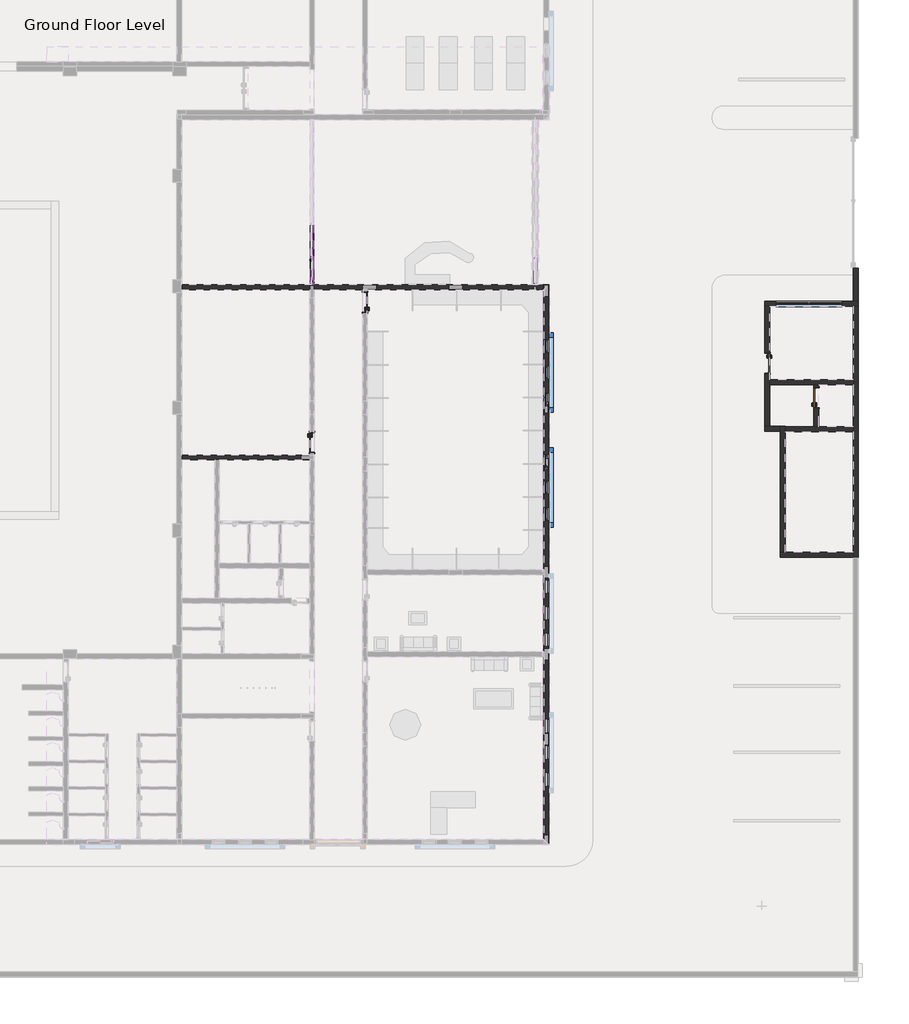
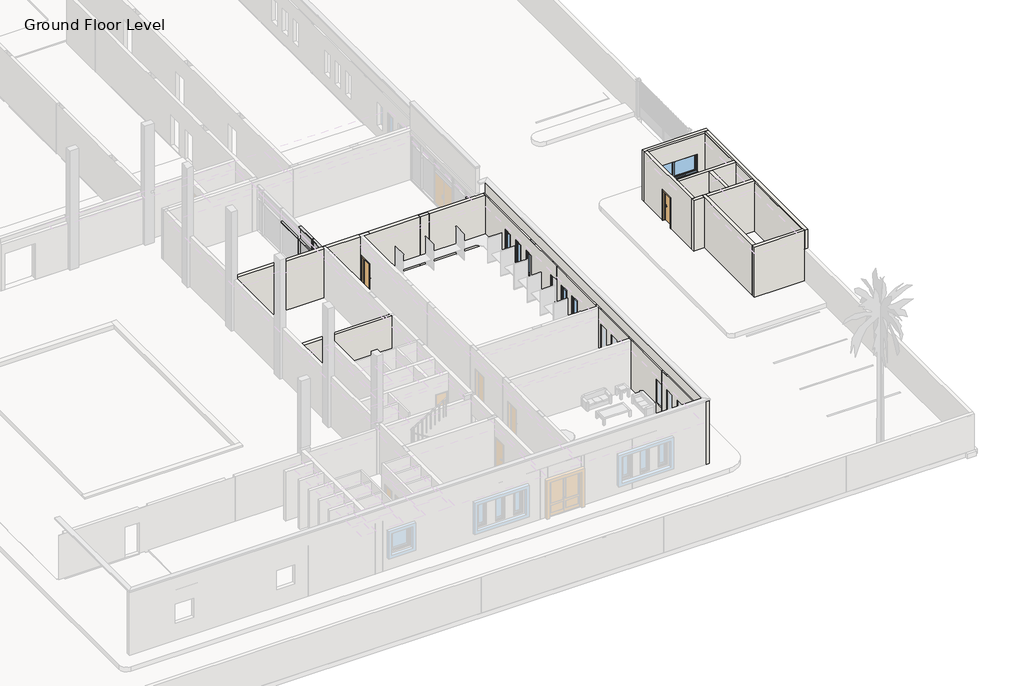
# One storey, part 5 of 23: 20 members, 13 walls, 9 windows, 6 doors, 4 plates.
"""IFC4 building model written with IfcOpenShell, lengths in millimetres."""

from ifc_helpers import new_model, si_unit, frame, origin, place, context, project, spatial, polyline, outline, extrude, faceted_brep, transform, mapped, element, save
from components import int_single_flush_nz_900_x_2100_2a598139, int_single_flush_nz_900_x_2100_021ef152, m_curtain_wall_sgl_glass_m_curtain_wall_sgl_glass_aad50b51, m_curtain_wall_sgl_glass_m_curtain_wall_sgl_glass_f4fa41e6, rectangular_mullion_50_x_150mm_79b53f25, rectangular_mullion_50_x_150mm_f0154c62, rectangular_mullion_50_x_150mm_3a148f0f, rectangular_mullion_50_x_150mm_5a145be0, rectangular_mullion_50_x_150mm_de483d99, rectangular_mullion_50_x_150mm_3a321350, rectangular_mullion_50_x_150mm_e54847f5, rectangular_mullion_50_x_150mm_792551fd, rectangular_mullion_50_x_150mm_23485ade, rectangular_mullion_50_x_150mm_35d6a770, rectangular_mullion_50_x_150mm_3ddb3363, rectangular_mullion_50_x_150mm_64d38db8, rectangular_mullion_50_x_150mm_641d0453, rectangular_mullion_50_x_150mm_e5f2d676, rectangular_mullion_50_x_150mm_4c046977, rectangular_mullion_50_x_150mm_5ce1b9ad, system_panel_glazed_c0405daf, system_panel_glazed_5c305629, system_panel_glazed_34c8777d, system_panel_glazed_a333d43b, awning_casement_double_w6_428bdf5d, window_batten_type_1_65f01d97, window_single_shutter_w3_b236610e

model = new_model("IFC4")

# Units and contexts
model_context = context("Model", 3, world=origin())
ifc_project = project(units=[si_unit("LENGTHUNIT", "METRE", prefix="MILLI")], contexts=[model_context])

# Site, building, storey
site = spatial("IfcSite", under=ifc_project)
building = spatial("IfcBuilding", under=site)
storey = spatial("IfcBuildingStorey", under=building, Name="Ground Floor Level", Elevation=900.0)

# Doors
placement = place(None, origin())
int_single_flush_nz_900_x_2100_shape = int_single_flush_nz_900_x_2100_2a598139(model_context)
element("IfcDoor", 1, ObjectType="Int Single-Flush (NZ) : 900 x 2100", at=placement, inside=storey, context=model_context, shape_type="MappedRepresentation", body=[
    mapped(int_single_flush_nz_900_x_2100_shape, transform((7752.7672395, -16758.7846466, 1000.0), x_axis=(0.0, 1.0, 0.0), y_axis=(-1.0, 0.0, 0.0), z_axis=(0.0, 0.0, 1.0))),
])
element("IfcDoor", 2, ObjectType="Int Single-Flush (NZ) : 900 x 2100", at=placement, inside=storey, context=model_context, shape_type="MappedRepresentation", body=[
    mapped(int_single_flush_nz_900_x_2100_shape, transform((5352.7672394, -23250.7846466, 1000.0), x_axis=(0.0, -1.0, 0.0), y_axis=(1.0, 0.0, 0.0), z_axis=(0.0, 0.0, 1.0))),
])
int_single_flush_nz_900_x_2100_2_shape = int_single_flush_nz_900_x_2100_021ef152(model_context)
element("IfcDoor", 3, ObjectType="Int Single-Flush (NZ) : 900 x 2100", at=placement, inside=storey, context=model_context, shape_type="MappedRepresentation", body=[
    mapped(int_single_flush_nz_900_x_2100_2_shape, transform((25952.7672395, -19670.7846454, 900.0), x_axis=(0.0, -1.0, 0.0), y_axis=(1.0, 0.0, 0.0), z_axis=(0.0, 0.0, 1.0))),
])
element("IfcDoor", 4, ObjectType="Int Single-Flush (NZ) : 900 x 2100", at=placement, inside=storey, context=model_context, shape_type="MappedRepresentation", body=[
    mapped(int_single_flush_nz_900_x_2100_2_shape, transform((28172.7672395, -21078.7846454, 900.0), x_axis=(0.0, 1.0, 0.0), y_axis=(-1.0, 0.0, 0.0), z_axis=(0.0, 0.0, 1.0))),
])
m_curtain_wall_sgl_glass_m_curtain_wall_sgl_glass_shape = m_curtain_wall_sgl_glass_m_curtain_wall_sgl_glass_aad50b51(model_context)
element("IfcDoor", 5, ObjectType="M_Curtain Wall Sgl Glass : M_Curtain Wall Sgl Glass", at=placement, inside=storey, context=model_context, shape_type="MappedRepresentation", body=[
    mapped(m_curtain_wall_sgl_glass_m_curtain_wall_sgl_glass_shape, transform((5352.7672395, -15919.7846466, 1050.0), x_axis=(0.0, -1.0, 0.0), y_axis=(1.0, 0.0, 0.0), z_axis=(0.0, 0.0, 1.0))),
])
m_curtain_wall_sgl_glass_m_curtain_wall_sgl_glass_2_shape = m_curtain_wall_sgl_glass_m_curtain_wall_sgl_glass_f4fa41e6(model_context)
element("IfcDoor", 6, ObjectType="M_Curtain Wall Sgl Glass : M_Curtain Wall Sgl Glass", at=placement, inside=storey, context=model_context, shape_type="MappedRepresentation", body=[
    mapped(m_curtain_wall_sgl_glass_m_curtain_wall_sgl_glass_2_shape, transform((5352.7672395, -15337.2846466, 1050.0), x_axis=(0.0, -1.0, 0.0), y_axis=(1.0, 0.0, 0.0), z_axis=(0.0, 0.0, 1.0))),
])

# Members
rectangular_mullion_50_x_150mm_shape = rectangular_mullion_50_x_150mm_79b53f25(model_context)
element("IfcMember", 7, ObjectType="Rectangular Mullion : 50 x 150mm", at=placement, inside=storey, context=model_context, shape_type="MappedRepresentation", body=[
    mapped(rectangular_mullion_50_x_150mm_shape, transform((5352.7672395, -14804.7846466, 1000.0), x_axis=(0.0, -1.0, 0.0), y_axis=(-1.0, 0.0, 0.0), z_axis=(0.0, 0.0, -1.0))),
])
element("IfcMember", 8, ObjectType="Rectangular Mullion : 50 x 150mm", at=placement, inside=storey, context=model_context, shape_type="MappedRepresentation", body=[
    mapped(rectangular_mullion_50_x_150mm_shape, transform((5352.7672395, -13304.7846466, 1000.0), x_axis=(0.0, -1.0, 0.0), y_axis=(-1.0, 0.0, 0.0), z_axis=(0.0, 0.0, -1.0))),
])
rectangular_mullion_50_x_150mm_2_shape = rectangular_mullion_50_x_150mm_f0154c62(model_context)
element("IfcMember", 9, ObjectType="Rectangular Mullion : 50 x 150mm", at=placement, inside=storey, context=model_context, shape_type="MappedRepresentation", body=[
    mapped(rectangular_mullion_50_x_150mm_2_shape, transform((5352.7672395, -14779.7846466, 3250.0), x_axis=(0.0, 0.0, 1.0), y_axis=(-1.0, 0.0, 0.0), z_axis=(0.0, -1.0, 0.0))),
])
rectangular_mullion_50_x_150mm_3_shape = rectangular_mullion_50_x_150mm_3a148f0f(model_context)
element("IfcMember", 10, ObjectType="Rectangular Mullion : 50 x 150mm", at=placement, inside=storey, context=model_context, shape_type="MappedRepresentation", body=[
    mapped(rectangular_mullion_50_x_150mm_3_shape, transform((5352.7672395, -13279.7846466, 3250.0), x_axis=(0.0, 0.0, 1.0), y_axis=(-1.0, 0.0, 0.0), z_axis=(0.0, -1.0, 0.0))),
])
rectangular_mullion_50_x_150mm_4_shape = rectangular_mullion_50_x_150mm_5a145be0(model_context)
element("IfcMember", 11, ObjectType="Rectangular Mullion : 50 x 150mm", at=placement, inside=storey, context=model_context, shape_type="MappedRepresentation", body=[
    mapped(rectangular_mullion_50_x_150mm_4_shape, transform((5352.7672395, -13329.7846466, 1000.0), x_axis=(0.0, 0.0, -1.0), y_axis=(-1.0, 0.0, 0.0), z_axis=(0.0, 1.0, 0.0))),
])
element("IfcMember", 12, ObjectType="Rectangular Mullion : 50 x 150mm", at=placement, inside=storey, context=model_context, shape_type="MappedRepresentation", body=[
    mapped(rectangular_mullion_50_x_150mm_4_shape, transform((5352.7672395, -14779.7846466, 4150.0), x_axis=(0.0, 0.0, 1.0), y_axis=(-1.0, 0.0, 0.0), z_axis=(0.0, -1.0, 0.0))),
])
rectangular_mullion_50_x_150mm_5_shape = rectangular_mullion_50_x_150mm_de483d99(model_context)
element("IfcMember", 13, ObjectType="Rectangular Mullion : 50 x 150mm", at=placement, inside=storey, context=model_context, shape_type="MappedRepresentation", body=[
    mapped(rectangular_mullion_50_x_150mm_5_shape, transform((5352.7672395, -16044.7846466, 1000.0), x_axis=(0.0, -1.0, 0.0), y_axis=(-1.0, 0.0, 0.0), z_axis=(0.0, 0.0, -1.0))),
])
rectangular_mullion_50_x_150mm_6_shape = rectangular_mullion_50_x_150mm_3a321350(model_context)
element("IfcMember", 14, ObjectType="Rectangular Mullion : 50 x 150mm", at=placement, inside=storey, context=model_context, shape_type="MappedRepresentation", body=[
    mapped(rectangular_mullion_50_x_150mm_6_shape, transform((15452.7672395, -16004.7846466, 4150.0), x_axis=(0.0, 0.0, 1.0), y_axis=(-1.0, 0.0, 0.0), z_axis=(0.0, -1.0, 0.0))),
])
rectangular_mullion_50_x_150mm_7_shape = rectangular_mullion_50_x_150mm_e54847f5(model_context)
element("IfcMember", 15, ObjectType="Rectangular Mullion : 50 x 150mm", at=placement, inside=storey, context=model_context, shape_type="MappedRepresentation", body=[
    mapped(rectangular_mullion_50_x_150mm_7_shape, transform((15452.7672395, -16004.7846466, 3550.0), x_axis=(0.0, 0.0, 1.0), y_axis=(-1.0, 0.0, 0.0), z_axis=(0.0, -1.0, 0.0))),
])
rectangular_mullion_50_x_150mm_8_shape = rectangular_mullion_50_x_150mm_792551fd(model_context)
element("IfcMember", 16, ObjectType="Rectangular Mullion : 50 x 150mm", at=placement, inside=storey, context=model_context, shape_type="MappedRepresentation", body=[
    mapped(rectangular_mullion_50_x_150mm_8_shape, transform((15452.7672395, -16054.7846466, 1000.0), x_axis=(0.0, -1.0, 0.0), y_axis=(-1.0, 0.0, 0.0), z_axis=(0.0, 0.0, -1.0))),
])
rectangular_mullion_50_x_150mm_9_shape = rectangular_mullion_50_x_150mm_23485ade(model_context)
element("IfcMember", 17, ObjectType="Rectangular Mullion : 50 x 150mm", at=placement, inside=storey, context=model_context, shape_type="MappedRepresentation", body=[
    mapped(rectangular_mullion_50_x_150mm_9_shape, transform((15452.7672395, -16054.7846466, 3200.0), x_axis=(0.0, -1.0, 0.0), y_axis=(-1.0, 0.0, 0.0), z_axis=(0.0, 0.0, -1.0))),
])
rectangular_mullion_50_x_150mm_10_shape = rectangular_mullion_50_x_150mm_35d6a770(model_context)
element("IfcMember", 18, ObjectType="Rectangular Mullion : 50 x 150mm", at=placement, inside=storey, context=model_context, shape_type="MappedRepresentation", body=[
    mapped(rectangular_mullion_50_x_150mm_10_shape, transform((5352.7672395, -16044.7846466, 3250.0), x_axis=(0.0, -1.0, 0.0), y_axis=(-1.0, 0.0, 0.0), z_axis=(0.0, 0.0, -1.0))),
])
rectangular_mullion_50_x_150mm_11_shape = rectangular_mullion_50_x_150mm_3ddb3363(model_context)
element("IfcMember", 19, ObjectType="Rectangular Mullion : 50 x 150mm", at=placement, inside=storey, context=model_context, shape_type="MappedRepresentation", body=[
    mapped(rectangular_mullion_50_x_150mm_11_shape, transform((5352.7672395, -14804.7846466, 3250.0), x_axis=(0.0, -1.0, 0.0), y_axis=(-1.0, 0.0, 0.0), z_axis=(0.0, 0.0, -1.0))),
])
rectangular_mullion_50_x_150mm_12_shape = rectangular_mullion_50_x_150mm_64d38db8(model_context)
element("IfcMember", 20, ObjectType="Rectangular Mullion : 50 x 150mm", at=placement, inside=storey, context=model_context, shape_type="MappedRepresentation", body=[
    mapped(rectangular_mullion_50_x_150mm_12_shape, transform((15452.7672395, -16054.7846466, 3550.0), x_axis=(0.0, -1.0, 0.0), y_axis=(-1.0, 0.0, 0.0), z_axis=(0.0, 0.0, -1.0))),
])
rectangular_mullion_50_x_150mm_13_shape = rectangular_mullion_50_x_150mm_641d0453(model_context)
element("IfcMember", 21, ObjectType="Rectangular Mullion : 50 x 150mm", at=placement, inside=storey, context=model_context, shape_type="MappedRepresentation", body=[
    mapped(rectangular_mullion_50_x_150mm_13_shape, transform((5352.7672395, -15844.7846466, 3250.0), x_axis=(0.0, 0.0, 1.0), y_axis=(-1.0, 0.0, 0.0), z_axis=(0.0, -1.0, 0.0))),
])
rectangular_mullion_50_x_150mm_14_shape = rectangular_mullion_50_x_150mm_e5f2d676(model_context)
element("IfcMember", 22, ObjectType="Rectangular Mullion : 50 x 150mm", at=placement, inside=storey, context=model_context, shape_type="MappedRepresentation", body=[
    mapped(rectangular_mullion_50_x_150mm_14_shape, transform((5352.7672395, -15994.7846466, 4150.0), x_axis=(0.0, 0.0, 1.0), y_axis=(-1.0, 0.0, 0.0), z_axis=(0.0, -1.0, 0.0))),
])
rectangular_mullion_50_x_150mm_15_shape = rectangular_mullion_50_x_150mm_4c046977(model_context)
element("IfcMember", 23, ObjectType="Rectangular Mullion : 50 x 150mm", at=placement, inside=storey, context=model_context, shape_type="MappedRepresentation", body=[
    mapped(rectangular_mullion_50_x_150mm_15_shape, transform((5352.7672395, -14829.7846466, 1000.0), x_axis=(0.0, 0.0, -1.0), y_axis=(-1.0, 0.0, 0.0), z_axis=(0.0, 1.0, 0.0))),
])
rectangular_mullion_50_x_150mm_16_shape = rectangular_mullion_50_x_150mm_5ce1b9ad(model_context)
element("IfcMember", 24, ObjectType="Rectangular Mullion : 50 x 150mm", at=placement, inside=storey, context=model_context, shape_type="MappedRepresentation", body=[
    mapped(rectangular_mullion_50_x_150mm_16_shape, transform((5352.7672395, -15994.7846466, 3250.0), x_axis=(0.0, 0.0, 1.0), y_axis=(-1.0, 0.0, 0.0), z_axis=(0.0, -1.0, 0.0))),
])
element("IfcMember", 25, ObjectType="Rectangular Mullion : 50 x 150mm", at=placement, inside=storey, context=model_context, shape_type="MappedRepresentation", body=[
    mapped(rectangular_mullion_50_x_150mm_15_shape, transform((5352.7672395, -15844.7846466, 4150.0), x_axis=(0.0, 0.0, 1.0), y_axis=(-1.0, 0.0, 0.0), z_axis=(0.0, -1.0, 0.0))),
])
element("IfcMember", 26, ObjectType="Rectangular Mullion : 50 x 150mm", at=placement, inside=storey, context=model_context, shape_type="MappedRepresentation", body=[
    mapped(rectangular_mullion_50_x_150mm_14_shape, transform((5352.7672395, -15844.7846466, 1000.0), x_axis=(0.0, 0.0, -1.0), y_axis=(-1.0, 0.0, 0.0), z_axis=(0.0, 1.0, 0.0))),
])

# Plates
system_panel_glazed_shape = system_panel_glazed_c0405daf(model_context)
element("IfcPlate", 27, ObjectType="System Panel : Glazed", at=placement, inside=storey, context=model_context, shape_type="MappedRepresentation", body=[
    mapped(system_panel_glazed_shape, transform((5352.7672395, -14054.7846466, 1050.0), x_axis=(0.0, -1.0, 0.0), y_axis=(1.0, 0.0, 0.0), z_axis=(0.0, 0.0, 1.0))),
])
system_panel_glazed_2_shape = system_panel_glazed_5c305629(model_context)
element("IfcPlate", 28, ObjectType="System Panel : Glazed", at=placement, inside=storey, context=model_context, shape_type="MappedRepresentation", body=[
    mapped(system_panel_glazed_2_shape, transform((5352.7672395, -14054.7846466, 3275.0), x_axis=(0.0, -1.0, 0.0), y_axis=(1.0, 0.0, 0.0), z_axis=(0.0, 0.0, 1.0))),
])
system_panel_glazed_3_shape = system_panel_glazed_34c8777d(model_context)
element("IfcPlate", 29, ObjectType="System Panel : Glazed", at=placement, inside=storey, context=model_context, shape_type="MappedRepresentation", body=[
    mapped(system_panel_glazed_3_shape, transform((5352.7672395, -15337.2846466, 3275.0), x_axis=(0.0, -1.0, 0.0), y_axis=(1.0, 0.0, 0.0), z_axis=(0.0, 0.0, 1.0))),
])
system_panel_glazed_4_shape = system_panel_glazed_a333d43b(model_context)
element("IfcPlate", 30, ObjectType="System Panel : Glazed", at=placement, inside=storey, context=model_context, shape_type="MappedRepresentation", body=[
    mapped(system_panel_glazed_4_shape, transform((5352.7672395, -15919.7846466, 3275.0), x_axis=(0.0, -1.0, 0.0), y_axis=(1.0, 0.0, 0.0), z_axis=(0.0, 0.0, 1.0))),
])

# Walls
element("IfcWall", 31, ObjectType="Exterior - Blockwork 200mm", at=placement, inside=storey, context=model_context, shape_type="Brep", body=[
    faceted_brep([(25842.7672395, -17014.7846454, 900.0), (26062.7672395, -17014.7846454, 900.0), (29842.7672395, -17014.7846454, 900.0), (30062.7672395, -17014.7846454, 900.0), (30062.7672395, -17014.7846454, 4400.0), (29852.7672395, -17014.7846454, 4400.0), (29852.7672395, -17014.7846454, 4270.0), (29842.7672395, -17014.7846454, 4270.0), (26062.7672395, -17014.7846454, 4270.0), (26052.7672395, -17014.7846454, 4270.0), (26052.7672395, -17014.7846454, 4400.0), (25842.7672395, -17014.7846454, 4400.0), (29342.7672395, -17014.7846454, 3000.0), (29342.7672395, -17014.7846454, 1800.0), (26342.7672395, -17014.7846454, 1800.0), (26342.7672395, -17014.7846454, 3000.0), (30062.7672395, -16794.7846454, 900.0), (25842.7672395, -16794.7846454, 900.0), (25842.7672395, -16794.7846454, 4400.0), (30062.7672395, -16794.7846454, 4400.0), (30062.7672395, -16794.7846454, 3100.0), (29342.7672395, -16794.7846454, 1800.0), (29342.7672395, -16794.7846454, 3000.0), (26342.7672395, -16794.7846454, 3000.0), (26342.7672395, -16794.7846454, 1800.0), (26052.7672395, -17004.7846454, 4400.0), (29852.7672395, -17004.7846454, 4400.0), (29852.7672395, -17004.7846454, 4270.0), (26052.7672395, -17004.7846454, 4270.0)], [[[0, 1, 2, 3, 4, 5, 6, 7, 8, 9, 10, 11], [12, 13, 14, 15]], [[16, 17, 18, 19, 20], [21, 22, 23, 24]], [[3, 2, 1, 0, 17, 16]], [[19, 18, 11, 10, 25, 26, 5, 4]], [[0, 11, 18, 17]], [[21, 13, 12, 22]], [[14, 24, 23, 15]], [[13, 21, 24, 14]], [[15, 23, 22, 12]], [[27, 28, 9, 8, 7, 6]], [[26, 27, 6, 5]], [[28, 25, 10, 9]], [[28, 27, 26, 25]], [[3, 16, 20, 19, 4]]]),
])
element("IfcWall", 32, ObjectType="Exterior - Blockwork 200mm", at=placement, inside=storey, context=model_context, shape_type="Brep", body=[
    faceted_brep([(30062.7672395, -28364.7846456, 900.0), (30062.7672395, -17014.7846454, 900.0), (30062.7672395, -17014.7846454, 4400.0), (30062.7672395, -28364.7846456, 4400.0), (29842.7672395, -17014.7846454, 900.0), (29842.7672395, -20344.7846454, 900.0), (29842.7672395, -20564.7846454, 900.0), (29842.7672395, -22464.7846454, 900.0), (29842.7672395, -22684.7846454, 900.0), (29842.7672395, -28144.7846456, 900.0), (29842.7672395, -28364.7846456, 900.0), (29842.7672395, -28364.7846456, 4400.0), (29842.7672395, -28154.7846456, 4400.0), (29842.7672395, -28154.7846456, 4270.0), (29842.7672395, -28144.7846456, 4270.0), (29842.7672395, -17014.7846454, 4270.0), (29852.7672395, -17014.7846454, 4400.0), (29852.7672395, -28154.7846456, 4400.0), (29852.7672395, -28154.7846456, 4270.0), (29852.7672395, -17014.7846454, 4270.0)], [[[0, 1, 2, 3]], [[4, 5, 6, 7, 8, 9, 10, 11, 12, 13, 14, 15]], [[1, 0, 10, 9, 8, 7, 6, 5, 4]], [[3, 2, 16, 17, 12, 11]], [[13, 18, 19, 15, 14]], [[18, 17, 16, 19]], [[17, 18, 13, 12]], [[3, 11, 10, 0]], [[1, 4, 15, 19, 16, 2]]]),
])
element("IfcWall", 33, ObjectType="Exterior - Blockwork 200mm", at=placement, inside=storey, context=model_context, shape_type="Brep", body=[
    faceted_brep([(29842.7672395, -28144.7846456, 900.0), (26762.7672394, -28144.7846456, 900.0), (26542.7672394, -28144.7846456, 900.0), (26542.7672394, -28144.7846456, 4400.0), (26752.7672394, -28144.7846456, 4400.0), (26752.7672394, -28144.7846456, 4270.0), (29842.7672395, -28144.7846456, 4270.0), (26542.7672394, -28364.7846456, 900.0), (29842.7672395, -28364.7846456, 900.0), (29842.7672395, -28364.7846456, 4400.0), (26542.7672394, -28364.7846456, 4400.0), (29842.7672395, -28154.7846456, 4400.0), (26752.7672394, -28154.7846456, 4400.0), (26752.7672394, -28154.7846456, 4270.0), (29842.7672395, -28154.7846456, 4270.0)], [[[0, 1, 2, 3, 4, 5, 6]], [[7, 8, 9, 10]], [[2, 1, 0, 8, 7]], [[10, 9, 11, 12, 4, 3]], [[3, 2, 7, 10]], [[5, 13, 14, 6]], [[13, 12, 11, 14]], [[12, 13, 5, 4]], [[8, 0, 6, 14, 11, 9]]]),
])
element("IfcWall", 34, ObjectType="Exterior - Blockwork 200mm", at=placement, inside=storey, context=model_context, shape_type="Brep", body=[
    faceted_brep([(26762.7672394, -28144.7846456, 900.0), (26762.7672394, -22684.7846454, 900.0), (26762.7672394, -22464.7846454, 900.0), (26762.7672394, -22444.7846454, 900.0), (26762.7672394, -22444.7846454, 4270.0), (26762.7672394, -28144.7846456, 4270.0), (26542.7672394, -22444.7846454, 900.0), (26542.7672394, -22664.7846454, 900.0), (26542.7672394, -28144.7846456, 900.0), (26542.7672394, -28144.7846456, 4400.0), (26542.7672394, -22664.7846454, 4400.0), (26542.7672394, -22454.7846454, 4400.0), (26542.7672394, -22454.7846454, 4270.0), (26542.7672394, -22444.7846454, 4270.0), (26752.7672394, -28144.7846456, 4400.0), (26752.7672394, -22454.7846454, 4400.0), (26752.7672394, -28144.7846456, 4270.0), (26752.7672394, -22454.7846454, 4270.0)], [[[0, 1, 2, 3, 4, 5]], [[6, 7, 8, 9, 10, 11, 12, 13]], [[3, 2, 1, 0, 8, 7, 6]], [[11, 10, 9, 14, 15]], [[9, 8, 0, 5, 16, 14]], [[3, 6, 13, 4]], [[12, 17, 16, 5, 4, 13]], [[17, 15, 14, 16]], [[15, 17, 12, 11]]]),
])
element("IfcWall", 35, ObjectType="Exterior - Blockwork 200mm", at=placement, inside=storey, context=model_context, shape_type="Brep", body=[
    faceted_brep([(26542.7672394, -22444.7846454, 900.0), (26062.7672395, -22444.7846454, 900.0), (25842.7672395, -22444.7846454, 900.0), (25842.7672395, -22444.7846454, 4400.0), (26052.7672395, -22444.7846454, 4400.0), (26052.7672395, -22444.7846454, 4270.0), (26062.7672395, -22444.7846454, 4270.0), (26542.7672394, -22444.7846454, 4270.0), (25842.7672395, -22664.7846454, 900.0), (26542.7672394, -22664.7846454, 900.0), (26542.7672394, -22664.7846454, 4400.0), (25842.7672395, -22664.7846454, 4400.0), (26542.7672394, -22454.7846454, 4400.0), (26052.7672395, -22454.7846454, 4400.0), (26542.7672394, -22454.7846454, 4270.0), (26052.7672395, -22454.7846454, 4270.0)], [[[0, 1, 2, 3, 4, 5, 6, 7]], [[8, 9, 10, 11]], [[2, 1, 0, 9, 8]], [[11, 10, 12, 13, 4, 3]], [[10, 9, 0, 7, 14, 12]], [[3, 2, 8, 11]], [[5, 15, 14, 7, 6]], [[15, 13, 12, 14]], [[13, 15, 5, 4]]]),
])
element("IfcWall", 36, ObjectType="Exterior - Blockwork 200mm", at=placement, inside=storey, context=model_context, shape_type="Brep", body=[
    faceted_brep([(26062.7672395, -22444.7846454, 900.0), (26062.7672395, -20564.7846454, 900.0), (26062.7672395, -20344.7846454, 900.0), (26062.7672395, -20064.7846454, 900.0), (26062.7672395, -20064.7846454, 3019.0), (26062.7672395, -19126.7846454, 3019.0), (26062.7672395, -19126.7846454, 900.0), (26062.7672395, -17014.7846454, 900.0), (26062.7672395, -17014.7846454, 4270.0), (26062.7672395, -22444.7846454, 4270.0), (25842.7672395, -22444.7846454, 4400.0), (25842.7672395, -17014.7846454, 4400.0), (25842.7672395, -17014.7846454, 900.0), (25842.7672395, -19126.7846454, 900.0), (25842.7672395, -19126.7846454, 3019.0), (25842.7672395, -20064.7846454, 3019.0), (25842.7672395, -20064.7846454, 900.0), (25842.7672395, -22444.7846454, 900.0), (26052.7672395, -22444.7846454, 4400.0), (26052.7672395, -17014.7846454, 4400.0), (26052.7672395, -17014.7846454, 4270.0), (26052.7672395, -22444.7846454, 4270.0)], [[[0, 1, 2, 3, 4, 5, 6, 7, 8, 9]], [[10, 11, 12, 13, 14, 15, 16, 17]], [[0, 17, 16, 3, 2, 1]], [[12, 7, 6, 13]], [[11, 10, 18, 19]], [[7, 12, 11, 19, 20, 8]], [[10, 17, 0, 9, 21, 18]], [[20, 21, 9, 8]], [[21, 20, 19, 18]], [[15, 4, 3, 16]], [[4, 15, 14, 5]], [[5, 14, 13, 6]]]),
])
element("IfcWall", 37, ObjectType="Exterior - Blockwork 200mm", at=placement, inside=storey, context=model_context, shape_type="Brep", body=[
    faceted_brep([(15843.0482736, -41364.7846466, 5302.8002678), (15843.0482736, -41144.7846466, 5302.8002678), (15843.0482736, -16264.7846466, 5302.8002678), (15843.0482736, -16264.7846466, 4550.0), (15843.0482736, -41144.7846466, 4550.0), (15843.0482736, -41354.7846466, 4550.0), (15843.0482736, -41354.7846466, 4400.0), (15843.0482736, -41144.7846466, 4400.0), (15843.0482736, -32864.7846466, 4400.0), (15843.0482736, -32644.7846466, 4400.0), (15843.0482736, -29164.7846466, 4400.0), (15843.0482736, -28944.7846466, 4400.0), (15843.0482736, -16264.7846466, 4400.0), (15843.0482736, -16044.7846466, 4400.0), (15843.0482736, -16044.7846466, 900.0), (15843.0482736, -16254.7846466, 900.0), (15843.0482736, -16254.7846466, 1000.0), (15843.0482736, -16264.7846466, 1000.0), (15843.0482736, -28944.7846466, 1000.0), (15843.0482736, -28954.7846466, 1000.0), (15843.0482736, -28954.7846466, 900.0), (15843.0482736, -29154.7846466, 900.0), (15843.0482736, -29154.7846466, 1000.0), (15843.0482736, -29164.7846466, 1000.0), (15843.0482736, -32644.7846466, 1000.0), (15843.0482736, -32654.7846466, 1000.0), (15843.0482736, -32654.7846466, 900.0), (15843.0482736, -32854.7846466, 900.0), (15843.0482736, -32854.7846466, 1000.0), (15843.0482736, -32864.7846466, 1000.0), (15843.0482736, -41144.7846466, 1000.0), (15843.0482736, -41154.7846466, 1000.0), (15843.0482736, -41154.7846466, 900.0), (15843.0482736, -41364.7846466, 900.0), (15843.0482736, -18515.3475065, 1800.0), (15843.0482736, -18515.3475065, 3400.0), (15843.0482736, -19115.3475065, 3400.0), (15843.0482736, -19115.3475065, 1800.0), (15843.0482736, -19715.3475065, 1800.0), (15843.0482736, -19715.3475065, 3400.0), (15843.0482736, -20315.3475065, 3400.0), (15843.0482736, -20315.3475065, 1800.0), (15843.0482736, -20915.3475065, 1800.0), (15843.0482736, -20915.3475065, 3400.0), (15843.0482736, -21515.3475065, 3400.0), (15843.0482736, -21515.3475065, 1800.0), (15843.0482736, -23714.2217868, 1800.0), (15843.0482736, -23714.2217868, 3400.0), (15843.0482736, -24314.2217868, 3400.0), (15843.0482736, -24314.2217868, 1800.0), (15843.0482736, -24914.2217867, 1800.0), (15843.0482736, -24914.2217867, 3400.0), (15843.0482736, -25514.2217867, 3400.0), (15843.0482736, -25514.2217867, 1800.0), (15843.0482736, -26114.2217867, 1800.0), (15843.0482736, -26114.2217867, 3400.0), (15843.0482736, -26714.2217867, 3400.0), (15843.0482736, -26714.2217867, 1800.0), (15843.0482736, -29404.7846466, 1800.0), (15843.0482736, -29404.7846466, 3400.0), (15843.0482736, -30004.7846466, 3400.0), (15843.0482736, -30004.7846466, 1800.0), (15843.0482736, -30604.7846466, 1800.0), (15843.0482736, -30604.7846466, 3400.0), (15843.0482736, -31204.7846466, 3400.0), (15843.0482736, -31204.7846466, 1800.0), (15843.0482736, -31804.7846466, 1800.0), (15843.0482736, -31804.7846466, 3400.0), (15843.0482736, -32404.7846466, 3400.0), (15843.0482736, -32404.7846466, 1800.0), (15843.0482736, -35704.7846466, 1800.0), (15843.0482736, -35704.7846466, 3400.0), (15843.0482736, -36304.7846466, 3400.0), (15843.0482736, -36304.7846466, 1800.0), (15843.0482736, -36904.7846466, 1800.0), (15843.0482736, -36904.7846466, 3400.0), (15843.0482736, -37504.7846466, 3400.0), (15843.0482736, -37504.7846466, 1800.0), (15843.0482736, -38124.7846466, 1800.0), (15843.0482736, -38124.7846466, 3400.0), (15843.0482736, -38724.7846466, 3400.0), (15843.0482736, -38724.7846466, 1800.0), (16063.0482736, -41364.7846466, 900.0), (16063.0482736, -16044.7846466, 900.0), (16063.0482736, -16044.7846466, 4400.0), (16063.0482736, -16264.7846466, 4400.0), (16063.0482736, -16264.7846466, 5302.8002678), (16063.0482736, -41364.7846466, 5302.8002678), (16063.0482736, -18515.3475065, 3400.0), (16063.0482736, -18515.3475065, 1800.0), (16063.0482736, -19115.3475065, 1800.0), (16063.0482736, -19115.3475065, 3400.0), (16063.0482736, -19715.3475065, 3400.0), (16063.0482736, -19715.3475065, 1800.0), (16063.0482736, -20315.3475065, 1800.0), (16063.0482736, -20315.3475065, 3400.0), (16063.0482736, -20915.3475065, 3400.0), (16063.0482736, -20915.3475065, 1800.0), (16063.0482736, -21515.3475065, 1800.0), (16063.0482736, -21515.3475065, 3400.0), (16063.0482736, -23714.2217868, 3400.0), (16063.0482736, -23714.2217868, 1800.0), (16063.0482736, -24314.2217868, 1800.0), (16063.0482736, -24314.2217868, 3400.0), (16063.0482736, -24914.2217867, 3400.0), (16063.0482736, -24914.2217867, 1800.0), (16063.0482736, -25514.2217867, 1800.0), (16063.0482736, -25514.2217867, 3400.0), (16063.0482736, -26114.2217867, 3400.0), (16063.0482736, -26114.2217867, 1800.0), (16063.0482736, -26714.2217867, 1800.0), (16063.0482736, -26714.2217867, 3400.0), (16063.0482736, -29404.7846466, 3400.0), (16063.0482736, -29404.7846466, 1800.0), (16063.0482736, -30004.7846466, 1800.0), (16063.0482736, -30004.7846466, 3400.0), (16063.0482736, -30604.7846466, 3400.0), (16063.0482736, -30604.7846466, 1800.0), (16063.0482736, -31204.7846466, 1800.0), (16063.0482736, -31204.7846466, 3400.0), (16063.0482736, -31804.7846466, 3400.0), (16063.0482736, -31804.7846466, 1800.0), (16063.0482736, -32404.7846466, 1800.0), (16063.0482736, -32404.7846466, 3400.0), (16063.0482736, -35704.7846466, 3400.0), (16063.0482736, -35704.7846466, 1800.0), (16063.0482736, -36304.7846466, 1800.0), (16063.0482736, -36304.7846466, 3400.0), (16063.0482736, -36904.7846466, 3400.0), (16063.0482736, -36904.7846466, 1800.0), (16063.0482736, -37504.7846466, 1800.0), (16063.0482736, -37504.7846466, 3400.0), (16063.0482736, -38124.7846466, 3400.0), (16063.0482736, -38124.7846466, 1800.0), (16063.0482736, -38724.7846466, 1800.0), (16063.0482736, -38724.7846466, 3400.0), (16052.7672395, -16554.7846466, 4400.0), (16052.7672395, -16554.7846466, 900.0), (15853.0482736, -16554.7846466, 900.0), (15853.0482736, -16554.7846466, 1000.0), (15852.7672395, -16554.7846466, 1000.0), (15852.7672395, -16554.7846466, 4400.0), (15852.7672395, -16054.7846466, 900.0), (15852.7672395, -16054.7846466, 4400.0), (15852.7672395, -16254.7846466, 1000.0), (15852.7672395, -16254.7846466, 900.0), (16052.7672395, -21854.7846466, 4400.0), (16052.7672395, -21854.7846466, 900.0), (15853.0482736, -21854.7846466, 900.0), (15853.0482736, -21854.7846466, 1000.0), (15852.7672395, -21854.7846466, 1000.0), (15852.7672395, -21854.7846466, 4400.0), (15852.7672395, -21354.7846466, 3400.0), (15852.7672395, -21354.7846466, 4400.0), (15852.7672395, -21354.7846466, 1000.0), (15852.7672395, -21354.7846466, 1800.0), (15852.7672395, -21515.3475065, 1800.0), (15852.7672395, -21515.3475065, 3400.0), (16052.7672395, -21354.7846466, 3400.0), (16052.7672395, -21354.7846466, 4400.0), (16052.7672395, -21354.7846466, 1800.0), (15853.0482736, -21354.7846466, 1000.0), (15853.0482736, -21354.7846466, 900.0), (16052.7672395, -21354.7846466, 900.0), (16052.7672395, -24404.2217867, 4400.0), (16052.7672395, -24404.2217867, 900.0), (15853.0482736, -24404.2217867, 900.0), (15853.0482736, -24404.2217867, 1000.0), (15852.7672395, -24404.2217867, 1000.0), (15852.7672395, -24404.2217867, 4400.0), (15852.7672395, -23904.2217867, 3400.0), (15852.7672395, -23904.2217867, 4400.0), (15852.7672395, -23904.2217867, 1000.0), (15852.7672395, -23904.2217867, 1800.0), (15852.7672395, -24314.2217868, 1800.0), (15852.7672395, -24314.2217868, 3400.0), (16052.7672395, -23904.2217867, 3400.0), (16052.7672395, -23904.2217867, 4400.0), (16052.7672395, -23904.2217867, 1800.0), (15853.0482736, -23904.2217867, 1000.0), (15853.0482736, -23904.2217867, 900.0), (16052.7672395, -23904.2217867, 900.0), (16052.7672395, -29304.7846466, 4400.0), (16052.7672395, -29304.7846466, 900.0), (15853.0482736, -29304.7846466, 900.0), (15853.0482736, -29304.7846466, 1000.0), (15852.7672395, -29304.7846466, 1000.0), (15852.7672395, -29304.7846466, 4400.0), (15852.7672395, -28804.7846466, 4400.0), (15852.7672395, -29154.7846466, 1000.0), (15852.7672395, -29154.7846466, 900.0), (15852.7672395, -28954.7846466, 900.0), (15852.7672395, -28954.7846466, 1000.0), (15852.7672395, -28804.7846466, 1000.0), (16052.7672395, -28804.7846466, 900.0), (16052.7672395, -28804.7846466, 4400.0), (15853.0482736, -28804.7846466, 1000.0), (15853.0482736, -28804.7846466, 900.0), (16052.7672395, -33004.7846466, 4400.0), (16052.7672395, -33004.7846466, 900.0), (15853.0482736, -33004.7846466, 900.0), (15853.0482736, -33004.7846466, 1000.0), (15852.7672395, -33004.7846466, 1000.0), (15852.7672395, -33004.7846466, 4400.0), (15852.7672395, -32504.7846466, 4400.0), (15852.7672395, -32854.7846466, 1000.0), (15852.7672395, -32854.7846466, 900.0), (15852.7672395, -32654.7846466, 900.0), (15852.7672395, -32654.7846466, 1000.0), (15852.7672395, -32504.7846466, 1000.0), (16052.7672395, -32504.7846466, 900.0), (16052.7672395, -32504.7846466, 4400.0), (15853.0482736, -32504.7846466, 1000.0), (15853.0482736, -32504.7846466, 900.0), (16052.7672395, -36854.7846466, 4400.0), (16052.7672395, -36854.7846466, 900.0), (15853.0482736, -36854.7846466, 900.0), (15853.0482736, -36854.7846466, 1000.0), (15852.7672395, -36854.7846466, 1000.0), (15852.7672395, -36854.7846466, 4400.0), (15852.7672395, -36354.7846466, 4400.0), (15852.7672395, -36354.7846466, 1000.0), (16052.7672395, -36354.7846466, 900.0), (16052.7672395, -36354.7846466, 4400.0), (15853.0482736, -36354.7846466, 1000.0), (15853.0482736, -36354.7846466, 900.0), (15852.7672395, -41354.7846466, 4400.0), (15852.7672395, -41354.7846466, 900.0), (15852.7672395, -41154.7846466, 900.0), (15852.7672395, -41154.7846466, 1000.0), (15852.7672395, -40954.7846466, 1000.0), (15852.7672395, -40954.7846466, 4400.0), (16052.7672395, -40954.7846466, 900.0), (16052.7672395, -40954.7846466, 4400.0), (15853.0482736, -40954.7846466, 1000.0), (15853.0482736, -40954.7846466, 900.0), (16052.7672395, -16054.7846466, 4400.0), (16052.7672395, -16054.7846466, 900.0), (16052.7672395, -21515.3475065, 3400.0), (16052.7672395, -21515.3475065, 1800.0), (16052.7672395, -24314.2217868, 3400.0), (16052.7672395, -24314.2217868, 1800.0), (16052.7672395, -41354.7846466, 900.0), (16052.7672395, -41354.7846466, 4400.0), (16053.0482736, -41354.7846466, 4550.0), (16053.0482736, -41354.7846466, 4400.0), (16053.0482736, -16264.7846466, 4550.0), (16053.0482736, -16264.7846466, 4400.0)], [[[0, 1, 2, 3, 4, 5, 6, 7, 8, 9, 10, 11, 12, 13, 14, 15, 16, 17, 18, 19, 20, 21, 22, 23, 24, 25, 26, 27, 28, 29, 30, 31, 32, 33], [34, 35, 36, 37], [38, 39, 40, 41], [42, 43, 44, 45], [46, 47, 48, 49], [50, 51, 52, 53], [54, 55, 56, 57], [58, 59, 60, 61], [62, 63, 64, 65], [66, 67, 68, 69], [70, 71, 72, 73], [74, 75, 76, 77], [78, 79, 80, 81]], [[82, 83, 84, 85, 86, 87], [88, 89, 90, 91], [92, 93, 94, 95], [96, 97, 98, 99], [100, 101, 102, 103], [104, 105, 106, 107], [108, 109, 110, 111], [112, 113, 114, 115], [116, 117, 118, 119], [120, 121, 122, 123], [124, 125, 126, 127], [128, 129, 130, 131], [132, 133, 134, 135]], [[0, 33, 82, 87]], [[136, 137, 138, 139, 140, 141]], [[142, 143, 141, 140, 144, 145]], [[146, 147, 148, 149, 150, 151]], [[152, 153, 151, 150, 154, 155, 156, 157]], [[153, 152, 158, 159]], [[160, 155, 154, 161, 162, 163]], [[164, 165, 166, 167, 168, 169]], [[170, 171, 169, 168, 172, 173, 174, 175]], [[171, 170, 176, 177]], [[178, 173, 172, 179, 180, 181]], [[182, 183, 184, 185, 186, 187]], [[188, 187, 186, 189, 190, 191, 192, 193]], [[194, 195, 188, 193, 196, 197]], [[198, 199, 200, 201, 202, 203]], [[204, 203, 202, 205, 206, 207, 208, 209]], [[210, 211, 204, 209, 212, 213]], [[214, 215, 216, 217, 218, 219]], [[220, 219, 218, 221]], [[222, 223, 220, 221, 224, 225]], [[226, 227, 228, 229, 230, 231]], [[232, 233, 231, 230, 234, 235]], [[137, 136, 236, 237]], [[159, 158, 238, 239, 160, 163, 147, 146]], [[177, 176, 240, 241, 178, 181, 165, 164]], [[195, 194, 183, 182]], [[211, 210, 199, 198]], [[223, 222, 215, 214]], [[233, 232, 242, 243]], [[243, 242, 227, 226, 6, 5, 244, 245]], [[35, 34, 89, 88]], [[36, 35, 88, 91]], [[37, 36, 91, 90]], [[34, 37, 90, 89]], [[39, 38, 93, 92]], [[40, 39, 92, 95]], [[41, 40, 95, 94]], [[38, 41, 94, 93]], [[43, 42, 97, 96]], [[44, 43, 96, 99, 238, 158, 152, 157]], [[45, 44, 157, 156]], [[99, 98, 239, 238]], [[42, 45, 156, 155, 160, 239, 98, 97]], [[47, 46, 101, 100]], [[48, 47, 100, 103, 240, 176, 170, 175]], [[49, 48, 175, 174]], [[103, 102, 241, 240]], [[46, 49, 174, 173, 178, 241, 102, 101]], [[51, 50, 105, 104]], [[52, 51, 104, 107]], [[53, 52, 107, 106]], [[50, 53, 106, 105]], [[55, 54, 109, 108]], [[56, 55, 108, 111]], [[57, 56, 111, 110]], [[54, 57, 110, 109]], [[59, 58, 113, 112]], [[60, 59, 112, 115]], [[61, 60, 115, 114]], [[58, 61, 114, 113]], [[63, 62, 117, 116]], [[64, 63, 116, 119]], [[65, 64, 119, 118]], [[62, 65, 118, 117]], [[67, 66, 121, 120]], [[68, 67, 120, 123]], [[69, 68, 123, 122]], [[66, 69, 122, 121]], [[71, 70, 125, 124]], [[72, 71, 124, 127]], [[73, 72, 127, 126]], [[70, 73, 126, 125]], [[75, 74, 129, 128]], [[76, 75, 128, 131]], [[77, 76, 131, 130]], [[74, 77, 130, 129]], [[79, 78, 133, 132]], [[80, 79, 132, 135]], [[81, 80, 135, 134]], [[78, 81, 134, 133]], [[244, 5, 4, 3, 246]], [[245, 244, 246, 247]], [[14, 13, 84, 83]], [[86, 85, 247, 246, 3, 2]], [[143, 142, 237, 236]], [[201, 224, 221, 218, 217, 234, 230, 229, 31, 30, 29, 28, 205, 202]], [[224, 201, 200, 225]], [[234, 217, 216, 235]], [[31, 229, 228, 32]], [[205, 28, 27, 206]], [[185, 212, 209, 208, 25, 24, 23, 22, 189, 186]], [[212, 185, 184, 213]], [[25, 208, 207, 26]], [[189, 22, 21, 190]], [[139, 161, 154, 150, 149, 179, 172, 168, 167, 196, 193, 192, 19, 18, 17, 16, 144, 140]], [[161, 139, 138, 162]], [[179, 149, 148, 180]], [[196, 167, 166, 197]], [[19, 192, 191, 20]], [[144, 16, 15, 145]], [[83, 82, 33, 32, 228, 227, 242, 232, 235, 216, 215, 222, 225, 200, 199, 210, 213, 184, 183, 194, 197, 166, 165, 181, 180, 148, 147, 163, 162, 138, 137, 237, 142, 145, 15, 14]], [[27, 26, 207, 206]], [[190, 21, 20, 191]], [[2, 1, 0, 87, 86]], [[243, 245, 247, 85, 84, 13, 12, 11, 10, 9, 8, 7, 6, 226, 231, 233], [136, 141, 143, 236], [146, 151, 153, 159], [164, 169, 171, 177], [182, 187, 188, 195], [198, 203, 204, 211], [214, 219, 220, 223]]]),
])
element("IfcWall", 38, ObjectType="Exterior - Blockwork 200mm", at=placement, inside=storey, context=model_context, shape_type="Brep", body=[
    faceted_brep([(30062.7672395, -16794.7846454, 600.0), (30062.7672395, -15294.7846454, 600.0), (30062.7672395, -15294.7846454, 3100.0), (30062.7672395, -16794.7846454, 3100.0), (30062.7672395, -16794.7846454, 900.0), (29842.7672395, -16794.7846454, 600.0), (29842.7672395, -16794.7846454, 3100.0), (29842.7672395, -15294.7846454, 3100.0), (29842.7672395, -15294.7846454, 600.0)], [[[0, 1, 2, 3, 4]], [[5, 6, 7, 8]], [[1, 0, 5, 8]], [[2, 1, 8, 7]], [[3, 2, 7, 6]], [[0, 4, 3, 6, 5]]]),
])
element("IfcWall", 39, ObjectType="Interior - Blockwork 200", at=placement, inside=storey, context=model_context, shape_type="Brep", body=[
    faceted_brep([(-537.2327605, -23964.7846466, 4400.0), (-537.2327605, -23964.7846466, 900.0), (942.7672395, -23964.7846466, 900.0), (1152.7672395, -23964.7846466, 900.0), (1152.7672395, -23964.7846466, 1000.0), (5242.7672394, -23964.7846466, 1000.0), (5242.7672394, -23964.7846466, 4400.0), (1162.7672395, -23964.7846466, 4400.0), (942.7672395, -23964.7846466, 4400.0), (-537.2327605, -23744.7846466, 4400.0), (5242.7672394, -23744.7846466, 4400.0), (5242.7672394, -23744.7846466, 1000.0), (-537.2327605, -23744.7846466, 1000.0), (4852.7672395, -23754.7846466, 900.0), (4852.7672395, -23954.7846466, 900.0), (1152.7672395, -23954.7846466, 900.0), (-537.2327605, -23754.7846466, 900.0), (5242.7672394, -23954.7846466, 4400.0), (5242.7672394, -23954.7846466, 1000.0), (5242.7672394, -23754.7846466, 4400.0), (5242.7672394, -23754.7846466, 1000.0), (-537.2327605, -23754.7846466, 1000.0), (4852.7672395, -23754.7846466, 4400.0), (4852.7672395, -23754.7846466, 1000.0), (4852.7672395, -23954.7846466, 4400.0), (4852.7672395, -23954.7846466, 1000.0), (1152.7672395, -23954.7846466, 1000.0)], [[[0, 1, 2, 3, 4, 5, 6, 7, 8]], [[9, 10, 11, 12]], [[13, 14, 15, 3, 2, 1, 16]], [[17, 6, 5, 18]], [[10, 19, 20, 11]], [[1, 0, 9, 12, 21, 16]], [[19, 22, 23, 20]], [[24, 17, 18, 25]], [[14, 13, 23, 22, 24, 25]], [[0, 8, 7, 6, 17, 24, 22, 19, 10, 9]], [[23, 21, 12, 11, 20]], [[21, 23, 13, 16]], [[26, 25, 18, 5, 4]], [[15, 26, 4, 3]], [[26, 15, 14, 25]]]),
])
element("IfcWall", 40, ObjectType="Interior - Blockwork 200", at=placement, inside=storey, context=model_context, shape_type="Brep", body=[
    faceted_brep([(15843.0482736, -16264.7846466, 4400.0), (15452.7672395, -16264.7846466, 4400.0), (7862.7672395, -16264.7846466, 4400.0), (7642.7672395, -16264.7846466, 4400.0), (5462.7672394, -16264.7846466, 4400.0), (5452.7672395, -16264.7846466, 4400.0), (5452.7672395, -16264.7846466, 1000.0), (5462.7672394, -16264.7846466, 1000.0), (7642.7672395, -16264.7846466, 1000.0), (7652.7672395, -16264.7846466, 1000.0), (7652.7672395, -16264.7846466, 900.0), (7852.7672395, -16264.7846466, 900.0), (7852.7672395, -16264.7846466, 1000.0), (7862.7672395, -16264.7846466, 1000.0), (15843.0482736, -16264.7846466, 1000.0), (5252.7672395, -16264.7846466, 4400.0), (5242.7672394, -16264.7846466, 4400.0), (-537.2327605, -16264.7846466, 4400.0), (-537.2327605, -16264.7846466, 1000.0), (5242.7672394, -16264.7846466, 1000.0), (5252.7672395, -16264.7846466, 1000.0), (-537.2327605, -16044.7846466, 4400.0), (15843.0482736, -16044.7846466, 4400.0), (15843.0482736, -16044.7846466, 900.0), (15562.7672395, -16044.7846466, 900.0), (15452.7672395, -16044.7846466, 900.0), (15452.7672395, -16044.7846466, 1000.0), (-537.2327605, -16044.7846466, 1000.0), (12152.7672395, -16254.7846466, 900.0), (12152.7672395, -16054.7846466, 900.0), (15452.7672395, -16054.7846466, 900.0), (15843.0482736, -16254.7846466, 900.0), (11552.7672395, -16054.7846466, 900.0), (11552.7672395, -16254.7846466, 900.0), (8252.7672395, -16254.7846466, 900.0), (8252.7672395, -16054.7846466, 900.0), (7652.7672395, -16054.7846466, 900.0), (7652.7672395, -16254.7846466, 900.0), (5452.7672395, -16254.7846466, 900.0), (5452.7672395, -16054.7846466, 900.0), (7852.7672395, -16254.7846466, 900.0), (5252.7672395, -16054.7846466, 900.0), (5252.7672395, -16254.7846466, 900.0), (-537.2327605, -16254.7846466, 900.0), (-537.2327605, -16054.7846466, 900.0), (5252.7672395, -16054.7846466, 4400.0), (5452.7672395, -16054.7846466, 4400.0), (11552.7672395, -16054.7846466, 4400.0), (12152.7672395, -16054.7846466, 4400.0), (12152.7672395, -16254.7846466, 4400.0), (11552.7672395, -16254.7846466, 4400.0), (7652.7672395, -16054.7846466, 4400.0), (8252.7672395, -16054.7846466, 4400.0), (8252.7672395, -16254.7846466, 4400.0), (7652.7672395, -16254.7846466, 4400.0), (-537.2327605, -16054.7846466, 1000.0), (-537.2327605, -16254.7846466, 1000.0), (11552.7672395, -16054.7846466, 1000.0), (12152.7672395, -16054.7846466, 1000.0), (12152.7672395, -16254.7846466, 1000.0), (11552.7672395, -16254.7846466, 1000.0), (7652.7672395, -16054.7846466, 1000.0), (8252.7672395, -16054.7846466, 1000.0), (8252.7672395, -16254.7846466, 1000.0), (7652.7672395, -16254.7846466, 1000.0), (7852.7672395, -16254.7846466, 1000.0), (5452.7672395, -16254.7846466, 1000.0), (5452.7672395, -16054.7846466, 1000.0), (5252.7672395, -16054.7846466, 1000.0), (5252.7672395, -16254.7846466, 1000.0), (15843.0482736, -16254.7846466, 1000.0), (7652.7672395, -16254.7846466, 1000.0), (15452.7672395, -16054.7846466, 1000.0)], [[[0, 1, 2, 3, 4, 5, 6, 7, 8, 9, 10, 11, 12, 13, 14]], [[15, 16, 17, 18, 19, 20]], [[21, 22, 23, 24, 25, 26, 27]], [[28, 29, 30, 25, 24, 23, 31]], [[32, 33, 34, 35]], [[36, 37, 38, 39]], [[37, 40, 11, 10]], [[41, 42, 43, 44]], [[22, 21, 17, 16, 15, 45, 46, 5, 4, 3, 2, 1, 0], [47, 48, 49, 50], [51, 52, 53, 54]], [[17, 21, 27, 55, 44, 43, 56, 18]], [[48, 47, 57, 58]], [[29, 28, 59, 49, 48, 58]], [[59, 60, 50, 49]], [[33, 32, 57, 47, 50, 60]], [[52, 51, 61, 62]], [[35, 34, 63, 53, 52, 62]], [[40, 37, 64, 54, 53, 63, 65]], [[37, 36, 61, 51, 54, 64]], [[39, 38, 66, 6, 5, 46, 67]], [[42, 41, 68, 45, 15, 20, 69]], [[46, 45, 68, 67]], [[23, 22, 0, 14, 70, 31]], [[63, 60, 59, 70, 14, 13, 12, 65]], [[65, 12, 11, 40]], [[60, 63, 34, 33]], [[70, 59, 28, 31]], [[56, 69, 20, 19, 18]], [[69, 56, 43, 42]], [[66, 71, 9, 8, 7, 6]], [[71, 37, 10, 9]], [[71, 66, 38, 37]], [[72, 58, 57, 62, 61, 67, 68, 55, 27, 26]], [[30, 72, 26, 25]], [[72, 30, 29, 58]], [[62, 57, 32, 35]], [[67, 61, 36, 39]], [[55, 68, 41, 44]]]),
])
element("IfcWall", 41, ObjectType="Interior - Blockwork 200", at=placement, inside=storey, context=model_context, shape_type="Brep", body=[
    faceted_brep([(26062.7672395, -20564.7846454, 900.0), (28062.7672395, -20564.7846454, 900.0), (28282.7672395, -20564.7846454, 900.0), (29842.7672395, -20564.7846454, 900.0), (29842.7672395, -20564.7846454, 4400.0), (28282.7672395, -20564.7846454, 4400.0), (28062.7672395, -20564.7846454, 4400.0), (26062.7672395, -20564.7846454, 4400.0), (26062.7672395, -20344.7846454, 900.0), (26062.7672395, -20344.7846454, 4400.0), (29842.7672395, -20344.7846454, 4400.0), (29842.7672395, -20344.7846454, 900.0)], [[[0, 1, 2, 3, 4, 5, 6, 7]], [[8, 9, 10, 11]], [[3, 2, 1, 0, 8, 11]], [[7, 6, 5, 4, 10, 9]], [[0, 7, 9, 8]], [[4, 3, 11, 10]]]),
])
element("IfcWall", 42, ObjectType="Interior - Blockwork 200", at=placement, inside=storey, context=model_context, shape_type="Brep", body=[
    faceted_brep([(26762.7672394, -22684.7846454, 900.0), (29842.7672395, -22684.7846454, 900.0), (29842.7672395, -22684.7846454, 4400.0), (26762.7672394, -22684.7846454, 4400.0), (26762.7672394, -22464.7846454, 900.0), (26762.7672394, -22464.7846454, 4400.0), (28062.7672395, -22464.7846454, 4400.0), (28282.7672395, -22464.7846454, 4400.0), (29842.7672395, -22464.7846454, 4400.0), (29842.7672395, -22464.7846454, 900.0), (28282.7672395, -22464.7846454, 900.0), (28062.7672395, -22464.7846454, 900.0)], [[[0, 1, 2, 3]], [[4, 5, 6, 7, 8, 9, 10, 11]], [[1, 0, 4, 11, 10, 9]], [[3, 2, 8, 7, 6, 5]], [[2, 1, 9, 8]], [[0, 3, 5, 4]]]),
])
element("IfcWall", 43, ObjectType="Interior - Blockwork 200", at=placement, inside=storey, context=model_context, shape_type="SweptSolid", body=[
    extrude(outline(polyline([(-22464.7846454, 4400.0), (-20564.7846454, 4400.0), (-20564.7846454, 900.0), (-20684.7846454, 900.0), (-20684.7846454, 3019.0), (-21622.7846454, 3019.0), (-21622.7846454, 900.0), (-22464.7846454, 900.0), (-22464.7846454, 4400.0)])), frame((28062.7672395, 0.0, 0.0), z_axis=(1.0, 0.0, 0.0), x_axis=(0.0, 1.0, 0.0)), (0.0, 0.0, 1.0), 220.0),
])

# Windows
awning_casement_double_w6_shape = awning_casement_double_w6_428bdf5d(model_context)
element("IfcWindow", 44, ObjectType="Awning Casement double : W6", at=placement, inside=storey, context=model_context, shape_type="MappedRepresentation", body=[
    mapped(awning_casement_double_w6_shape, transform((27842.7672395, -16904.7846454, 1000.0), x_axis=(-1.0, 0.0, 0.0), y_axis=(0.0, -1.0, 0.0), z_axis=(0.0, 0.0, 1.0))),
])
window_batten_type_1_shape = window_batten_type_1_65f01d97(model_context)
element("IfcWindow", 45, ObjectType="Window Batten : Type 1", at=placement, inside=storey, context=model_context, shape_type="MappedRepresentation", body=[
    mapped(window_batten_type_1_shape, transform((15953.0482736, -25340.3526786, 984.2726339), x_axis=(0.0, 1.0, 0.0), y_axis=(-1.0, 0.0, 0.0), z_axis=(0.0, 0.0, 1.0))),
])
element("IfcWindow", 46, ObjectType="Window Batten : Type 1", at=placement, inside=storey, context=model_context, shape_type="MappedRepresentation", body=[
    mapped(window_batten_type_1_shape, transform((15953.0482736, -20141.4783983, 984.2726339), x_axis=(0.0, 1.0, 0.0), y_axis=(-1.0, 0.0, 0.0), z_axis=(0.0, 0.0, 1.0))),
])
window_single_shutter_w3_shape = window_single_shutter_w3_b236610e(model_context)
element("IfcWindow", 47, ObjectType="Window- Single Shutter : W3", at=placement, inside=storey, context=model_context, shape_type="MappedRepresentation", body=[
    mapped(window_single_shutter_w3_shape, transform((15948.0482736, -18815.3475065, 1000.0), x_axis=(0.0, -1.0, 0.0), y_axis=(1.0, 0.0, 0.0), z_axis=(0.0, 0.0, 1.0))),
])
element("IfcWindow", 48, ObjectType="Window- Single Shutter : W3", at=placement, inside=storey, context=model_context, shape_type="MappedRepresentation", body=[
    mapped(window_single_shutter_w3_shape, transform((15948.0482736, -20015.3475065, 1000.0), x_axis=(0.0, -1.0, 0.0), y_axis=(1.0, 0.0, 0.0), z_axis=(0.0, 0.0, 1.0))),
])
element("IfcWindow", 49, ObjectType="Window- Single Shutter : W3", at=placement, inside=storey, context=model_context, shape_type="MappedRepresentation", body=[
    mapped(window_single_shutter_w3_shape, transform((15948.0482736, -21215.3475065, 1000.0), x_axis=(0.0, -1.0, 0.0), y_axis=(1.0, 0.0, 0.0), z_axis=(0.0, 0.0, 1.0))),
])
element("IfcWindow", 50, ObjectType="Window- Single Shutter : W3", at=placement, inside=storey, context=model_context, shape_type="MappedRepresentation", body=[
    mapped(window_single_shutter_w3_shape, transform((15948.0482736, -24014.2217868, 1000.0), x_axis=(0.0, -1.0, 0.0), y_axis=(1.0, 0.0, 0.0), z_axis=(0.0, 0.0, 1.0))),
])
element("IfcWindow", 51, ObjectType="Window- Single Shutter : W3", at=placement, inside=storey, context=model_context, shape_type="MappedRepresentation", body=[
    mapped(window_single_shutter_w3_shape, transform((15948.0482736, -25214.2217867, 1000.0), x_axis=(0.0, -1.0, 0.0), y_axis=(1.0, 0.0, 0.0), z_axis=(0.0, 0.0, 1.0))),
])
element("IfcWindow", 52, ObjectType="Window- Single Shutter : W3", at=placement, inside=storey, context=model_context, shape_type="MappedRepresentation", body=[
    mapped(window_single_shutter_w3_shape, transform((15948.0482736, -26414.2217867, 1000.0), x_axis=(0.0, -1.0, 0.0), y_axis=(1.0, 0.0, 0.0), z_axis=(0.0, 0.0, 1.0))),
])

save(model, "model.ifc")
